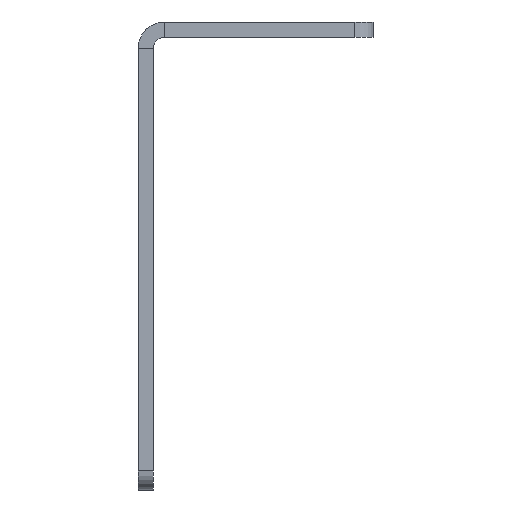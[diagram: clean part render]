
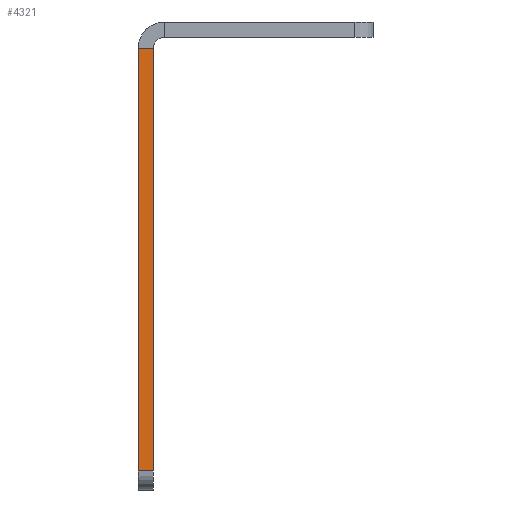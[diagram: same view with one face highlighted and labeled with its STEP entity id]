
A CAD part, front view. The second image highlights one B-rep face of the part: STEP entity #4321.
In plain terms, the highlighted planar face has unit normal (0, -1, 0).
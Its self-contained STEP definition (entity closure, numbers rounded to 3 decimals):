
#117 = EDGE_LOOP ( 'NONE', ( #47880, #4968, #27426, #28737 ) ) ;
#1025 = AXIS2_PLACEMENT_3D ( 'NONE', #6340, #6091, #22313 ) ;
#1733 = VECTOR ( 'NONE', #24197, 1000. ) ;
#2312 = DIRECTION ( 'NONE',  ( 1., 0., 0. ) ) ;
#2571 = LINE ( 'NONE', #45632, #40288 ) ;
#4321 = ADVANCED_FACE ( 'NONE', ( #41653 ), #22565, .F. ) ;
#4374 = LINE ( 'NONE', #39410, #1733 ) ;
#4968 = ORIENTED_EDGE ( 'NONE', *, *, #47793, .T. ) ;
#5217 = LINE ( 'NONE', #45153, #48649 ) ;
#5974 = DIRECTION ( 'NONE',  ( -1., 0., 0. ) ) ;
#6091 = DIRECTION ( 'NONE',  ( 0., 1., 0. ) ) ;
#6145 = EDGE_CURVE ( 'NONE', #6755, #35427, #40830, .T. ) ;
#6340 = CARTESIAN_POINT ( 'NONE',  ( 3.5, -951., -3.5 ) ) ;
#6755 = VERTEX_POINT ( 'NONE', #35262 ) ;
#9887 = CARTESIAN_POINT ( 'NONE',  ( 2., -951., -59. ) ) ;
#10341 = EDGE_CURVE ( 'NONE', #41519, #35427, #5217, .T. ) ;
#10358 = CARTESIAN_POINT ( 'NONE',  ( 0., -951., -61.5 ) ) ;
#13204 = CARTESIAN_POINT ( 'NONE',  ( 2., -951., -3.5 ) ) ;
#17801 = VERTEX_POINT ( 'NONE', #9887 ) ;
#21234 = DIRECTION ( 'NONE',  ( 0., 0., 1. ) ) ;
#22232 = EDGE_CURVE ( 'NONE', #17801, #41519, #4374, .T. ) ;
#22313 = DIRECTION ( 'NONE',  ( 1., 0., 0. ) ) ;
#22565 = PLANE ( 'NONE',  #1025 ) ;
#24197 = DIRECTION ( 'NONE',  ( 0., 0., 1. ) ) ;
#27426 = ORIENTED_EDGE ( 'NONE', *, *, #22232, .T. ) ;
#28737 = ORIENTED_EDGE ( 'NONE', *, *, #10341, .T. ) ;
#35262 = CARTESIAN_POINT ( 'NONE',  ( 0., -951., -59. ) ) ;
#35427 = VERTEX_POINT ( 'NONE', #40985 ) ;
#39410 = CARTESIAN_POINT ( 'NONE',  ( 2., -951., -61.5 ) ) ;
#40288 = VECTOR ( 'NONE', #2312, 1000. ) ;
#40830 = LINE ( 'NONE', #10358, #42199 ) ;
#40985 = CARTESIAN_POINT ( 'NONE',  ( 0., -951., -3.5 ) ) ;
#41519 = VERTEX_POINT ( 'NONE', #13204 ) ;
#41653 = FACE_OUTER_BOUND ( 'NONE', #117, .T. ) ;
#42199 = VECTOR ( 'NONE', #21234, 1000. ) ;
#45153 = CARTESIAN_POINT ( 'NONE',  ( 2., -951., -3.5 ) ) ;
#45632 = CARTESIAN_POINT ( 'NONE',  ( 2., -951., -59. ) ) ;
#47793 = EDGE_CURVE ( 'NONE', #6755, #17801, #2571, .T. ) ;
#47880 = ORIENTED_EDGE ( 'NONE', *, *, #6145, .F. ) ;
#48649 = VECTOR ( 'NONE', #5974, 1000. ) ;
